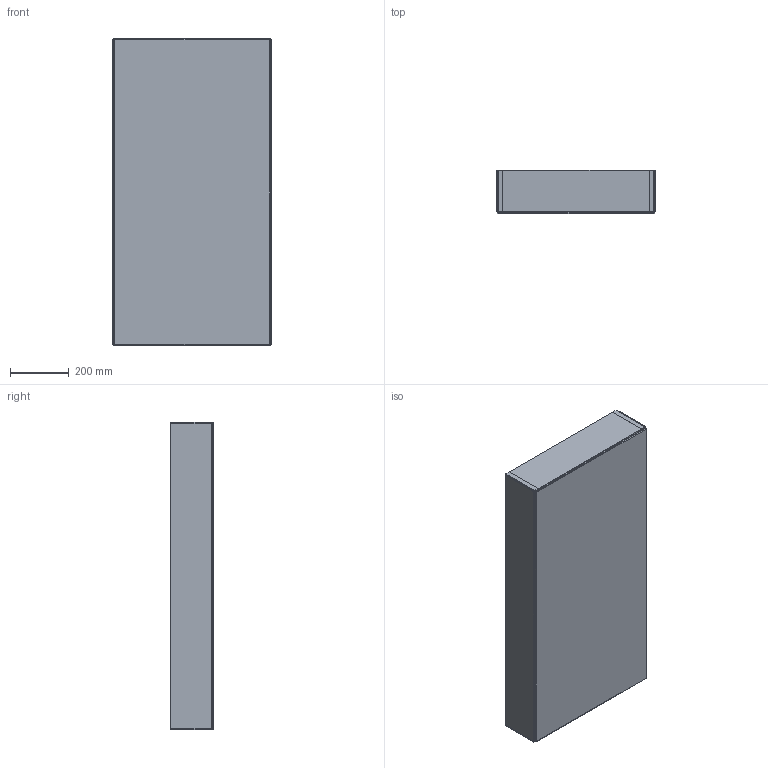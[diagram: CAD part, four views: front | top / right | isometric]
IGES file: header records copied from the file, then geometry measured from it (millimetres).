
Start section: Data from Parasolid IGES Translator 19.0.9, Copyright(c) 2006 Siemens PL M Software. All Rights Reserved.
Global section: file name: noorth-mirror-H 105 D 14,7 W 54_9057.igs; native system: By Siemens PLM Incorporated; preprocessor: XPlus GENERIC/IGES 19.0.9; author: Noname; organization: Noname; date: 20200519.095016; units: metre
Bounding box: 539.82 x 147 x 1050 mm (x, y, z)
Volume: 14306153 mm3; surface area: 4179304.7 mm2
Topology: 12 solids, 12 shells, 196 faces, 372 edges, 200 vertices
Faces by surface type: plane 196
